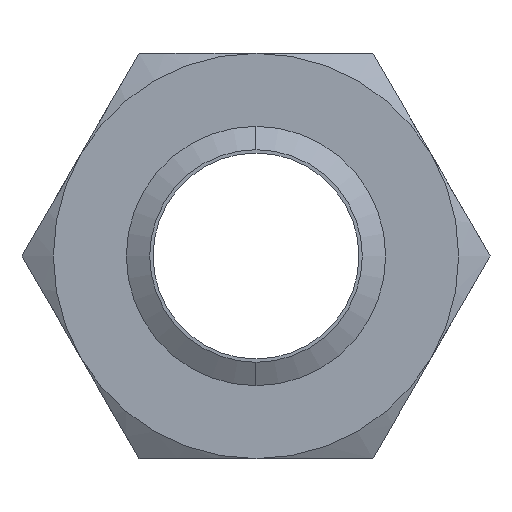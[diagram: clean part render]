
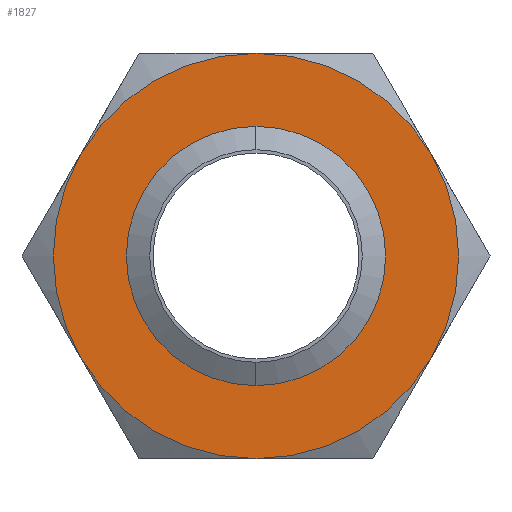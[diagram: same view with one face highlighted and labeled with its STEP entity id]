
A CAD part, front view. The second image highlights one B-rep face of the part: STEP entity #1827.
In plain terms, the highlighted planar face has unit normal (0, -1, 0).
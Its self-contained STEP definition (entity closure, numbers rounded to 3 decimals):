
#73 = VERTEX_POINT ( 'NONE', #480 ) ;
#202 = EDGE_CURVE ( 'NONE', #315, #203, #722, .T. ) ;
#203 = VERTEX_POINT ( 'NONE', #717 ) ;
#249 = ORIENTED_EDGE ( 'NONE', *, *, #1860, .F. ) ;
#315 = VERTEX_POINT ( 'NONE', #948 ) ;
#480 = CARTESIAN_POINT ( 'NONE',  ( 0., 0., 19.67 ) ) ;
#717 = CARTESIAN_POINT ( 'NONE',  ( 32.476, 0., 18.75 ) ) ;
#718 = DIRECTION ( 'NONE',  ( 0., 0., 1. ) ) ;
#719 = DIRECTION ( 'NONE',  ( 0., 1., 0. ) ) ;
#720 = CARTESIAN_POINT ( 'NONE',  ( 0., 0., 0. ) ) ;
#721 = AXIS2_PLACEMENT_3D ( 'NONE', #720, #719, #718 ) ;
#722 = CIRCLE ( 'NONE', #721, 37.5 ) ;
#948 = CARTESIAN_POINT ( 'NONE',  ( 0., 0., 37.5 ) ) ;
#1093 = CARTESIAN_POINT ( 'NONE',  ( -32.476, 0., -18.75 ) ) ;
#1109 = DIRECTION ( 'NONE',  ( 0., 0., 1. ) ) ;
#1110 = DIRECTION ( 'NONE',  ( 0., 1., 0. ) ) ;
#1111 = CARTESIAN_POINT ( 'NONE',  ( 21.651, 0., -37.5 ) ) ;
#1112 = AXIS2_PLACEMENT_3D ( 'NONE', #1111, #1110, #1109 ) ;
#1113 = PLANE ( 'NONE',  #1112 ) ;
#1114 = FACE_BOUND ( 'NONE', #1861, .T. ) ;
#1115 = FACE_OUTER_BOUND ( 'NONE', #1833, .T. ) ;
#1172 = DIRECTION ( 'NONE',  ( 0., 0., 1. ) ) ;
#1173 = DIRECTION ( 'NONE',  ( 0., 1., 0. ) ) ;
#1184 = CARTESIAN_POINT ( 'NONE',  ( 0., 0., 0. ) ) ;
#1185 = AXIS2_PLACEMENT_3D ( 'NONE', #1184, #1173, #1172 ) ;
#1188 = CIRCLE ( 'NONE', #1185, 37.5 ) ;
#1214 = DIRECTION ( 'NONE',  ( 0., 0., 1. ) ) ;
#1215 = DIRECTION ( 'NONE',  ( 0., 1., 0. ) ) ;
#1216 = CARTESIAN_POINT ( 'NONE',  ( 0., 0., 0. ) ) ;
#1217 = AXIS2_PLACEMENT_3D ( 'NONE', #1216, #1215, #1214 ) ;
#1218 = CIRCLE ( 'NONE', #1217, 37.5 ) ;
#1219 = DIRECTION ( 'NONE',  ( 0., 0., 1. ) ) ;
#1220 = DIRECTION ( 'NONE',  ( 0., 1., 0. ) ) ;
#1221 = CARTESIAN_POINT ( 'NONE',  ( 0., 0., 0. ) ) ;
#1222 = AXIS2_PLACEMENT_3D ( 'NONE', #1221, #1220, #1219 ) ;
#1223 = CIRCLE ( 'NONE', #1222, 37.5 ) ;
#1262 = AXIS2_PLACEMENT_3D ( 'NONE', #1317, #1316, #1315 ) ;
#1263 = CIRCLE ( 'NONE', #1262, 37.5 ) ;
#1264 = CARTESIAN_POINT ( 'NONE',  ( 32.476, 0., -18.75 ) ) ;
#1307 = DIRECTION ( 'NONE',  ( 0., 0., 1. ) ) ;
#1308 = DIRECTION ( 'NONE',  ( 0., 1., 0. ) ) ;
#1309 = CARTESIAN_POINT ( 'NONE',  ( 0., 0., 0. ) ) ;
#1310 = AXIS2_PLACEMENT_3D ( 'NONE', #1309, #1308, #1307 ) ;
#1311 = CIRCLE ( 'NONE', #1310, 37.5 ) ;
#1313 = CARTESIAN_POINT ( 'NONE',  ( 0., 0., -37.5 ) ) ;
#1314 = CARTESIAN_POINT ( 'NONE',  ( -32.476, 0., 18.75 ) ) ;
#1315 = DIRECTION ( 'NONE',  ( 0., 0., 1. ) ) ;
#1316 = DIRECTION ( 'NONE',  ( 0., 1., 0. ) ) ;
#1317 = CARTESIAN_POINT ( 'NONE',  ( 0., 0., 0. ) ) ;
#1336 = DIRECTION ( 'NONE',  ( 0., 0., -1. ) ) ;
#1337 = DIRECTION ( 'NONE',  ( 0., -1., 0. ) ) ;
#1338 = CARTESIAN_POINT ( 'NONE',  ( 0., 0., 0. ) ) ;
#1339 = AXIS2_PLACEMENT_3D ( 'NONE', #1338, #1337, #1336 ) ;
#1340 = CIRCLE ( 'NONE', #1339, 19.67 ) ;
#1641 = DIRECTION ( 'NONE',  ( 0., 0., -1. ) ) ;
#1642 = DIRECTION ( 'NONE',  ( 0., -1., 0. ) ) ;
#1643 = CARTESIAN_POINT ( 'NONE',  ( 0., 0., 0. ) ) ;
#1644 = AXIS2_PLACEMENT_3D ( 'NONE', #1643, #1642, #1641 ) ;
#1645 = CIRCLE ( 'NONE', #1644, 19.67 ) ;
#1650 = CARTESIAN_POINT ( 'NONE',  ( 0., 0., -19.67 ) ) ;
#1807 = VERTEX_POINT ( 'NONE', #1093 ) ;
#1813 = ORIENTED_EDGE ( 'NONE', *, *, #202, .F. ) ;
#1827 = ADVANCED_FACE ( 'NONE', ( #1115, #1114 ), #1113, .F. ) ;
#1833 = EDGE_LOOP ( 'NONE', ( #1813, #249, #1850, #1859, #1905, #1910 ) ) ;
#1849 = EDGE_CURVE ( 'NONE', #1807, #1908, #1188, .T. ) ;
#1850 = ORIENTED_EDGE ( 'NONE', *, *, #1849, .F. ) ;
#1858 = EDGE_CURVE ( 'NONE', #1909, #1807, #1223, .T. ) ;
#1859 = ORIENTED_EDGE ( 'NONE', *, *, #1858, .F. ) ;
#1860 = EDGE_CURVE ( 'NONE', #1908, #315, #1218, .T. ) ;
#1861 = EDGE_LOOP ( 'NONE', ( #1907, #1917 ) ) ;
#1904 = EDGE_CURVE ( 'NONE', #1906, #1909, #1263, .T. ) ;
#1905 = ORIENTED_EDGE ( 'NONE', *, *, #1904, .F. ) ;
#1906 = VERTEX_POINT ( 'NONE', #1264 ) ;
#1907 = ORIENTED_EDGE ( 'NONE', *, *, #2117, .F. ) ;
#1908 = VERTEX_POINT ( 'NONE', #1314 ) ;
#1909 = VERTEX_POINT ( 'NONE', #1313 ) ;
#1910 = ORIENTED_EDGE ( 'NONE', *, *, #1911, .F. ) ;
#1911 = EDGE_CURVE ( 'NONE', #203, #1906, #1311, .T. ) ;
#1917 = ORIENTED_EDGE ( 'NONE', *, *, #1934, .F. ) ;
#1934 = EDGE_CURVE ( 'NONE', #73, #2113, #1340, .T. ) ;
#2113 = VERTEX_POINT ( 'NONE', #1650 ) ;
#2117 = EDGE_CURVE ( 'NONE', #2113, #73, #1645, .T. ) ;
